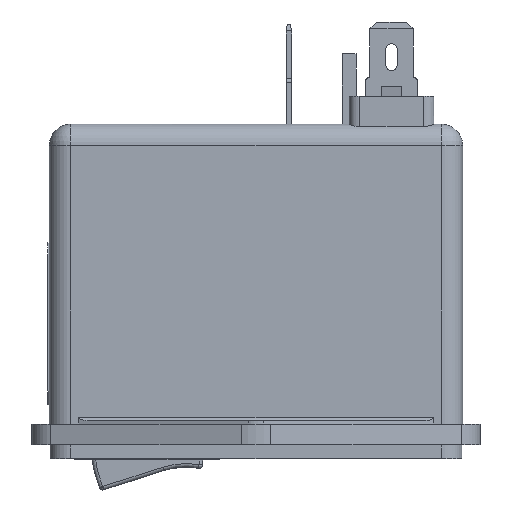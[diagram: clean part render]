
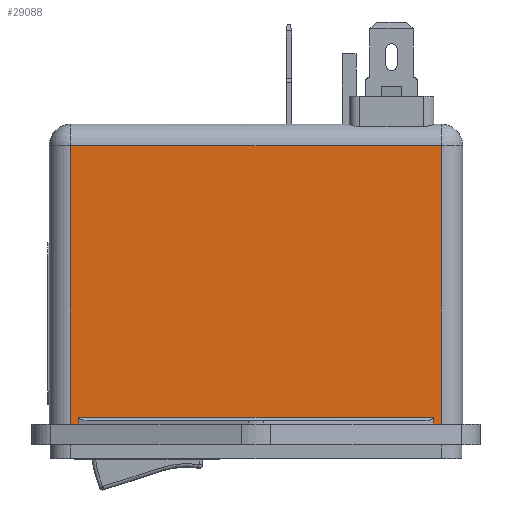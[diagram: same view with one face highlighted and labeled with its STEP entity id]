
A CAD part, left-side view. The second image highlights one B-rep face of the part: STEP entity #29088.
In plain terms, the highlighted planar face has unit normal (-1, 0, 0).
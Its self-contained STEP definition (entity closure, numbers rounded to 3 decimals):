
#28314=CARTESIAN_POINT('',(-14.25,-8.775,24.375));
#28315=VERTEX_POINT('',#28314);
#28323=CARTESIAN_POINT('',(-14.25,-7.655,24.375));
#28324=VERTEX_POINT('',#28323);
#28325=CARTESIAN_POINT('',(-14.25,-8.775,24.375));
#28326=DIRECTION('',(0.0,1.0,0.0));
#28327=VECTOR('',#28326,1.12);
#28328=LINE('',#28325,#28327);
#28329=EDGE_CURVE('',#28315,#28324,#28328,.T.);
#28347=CARTESIAN_POINT('',(-14.25,43.755,24.375));
#28348=VERTEX_POINT('',#28347);
#28355=CARTESIAN_POINT('',(-14.25,44.875,24.375));
#28356=VERTEX_POINT('',#28355);
#28357=CARTESIAN_POINT('',(-14.25,43.755,24.375));
#28358=DIRECTION('',(0.0,1.0,0.0));
#28359=VECTOR('',#28358,1.12);
#28360=LINE('',#28357,#28359);
#28361=EDGE_CURVE('',#28348,#28356,#28360,.T.);
#28794=CARTESIAN_POINT('',(-14.25,43.755,25.375));
#28795=VERTEX_POINT('',#28794);
#28813=CARTESIAN_POINT('',(-14.25,-7.655,25.375));
#28814=VERTEX_POINT('',#28813);
#28822=CARTESIAN_POINT('',(-14.25,-7.655,25.375));
#28823=DIRECTION('',(0.0,1.0,0.0));
#28824=VECTOR('',#28823,51.411);
#28825=LINE('',#28822,#28824);
#28826=EDGE_CURVE('',#28814,#28795,#28825,.T.);
#28988=CARTESIAN_POINT('',(-14.25,-7.655,25.375));
#28989=DIRECTION('',(0.0,0.0,-1.0));
#28990=VECTOR('',#28989,1.0);
#28991=LINE('',#28988,#28990);
#28992=EDGE_CURVE('',#28814,#28324,#28991,.T.);
#29030=CARTESIAN_POINT('',(-14.25,43.755,24.375));
#29031=DIRECTION('',(0.0,0.0,1.0));
#29032=VECTOR('',#29031,1.0);
#29033=LINE('',#29030,#29032);
#29034=EDGE_CURVE('',#28348,#28795,#29033,.T.);
#29054=CARTESIAN_POINT('',(-14.25,-11.925,24.375));
#29055=DIRECTION('',(-1.0,0.0,0.0));
#29056=DIRECTION('',(0.0,0.0,1.0));
#29057=AXIS2_PLACEMENT_3D('',#29054,#29055,#29056);
#29058=PLANE('',#29057);
#29059=ORIENTED_EDGE('',*,*,#28992,.T.);
#29060=ORIENTED_EDGE('',*,*,#28329,.F.);
#29061=CARTESIAN_POINT('',(-14.25,-8.775,64.725));
#29062=VERTEX_POINT('',#29061);
#29063=CARTESIAN_POINT('',(-14.25,-8.775,64.725));
#29064=DIRECTION('',(0.0,0.0,-1.0));
#29065=VECTOR('',#29064,40.35);
#29066=LINE('',#29063,#29065);
#29067=EDGE_CURVE('',#29062,#28315,#29066,.T.);
#29068=ORIENTED_EDGE('',*,*,#29067,.F.);
#29069=CARTESIAN_POINT('',(-14.25,44.875,64.725));
#29070=VERTEX_POINT('',#29069);
#29071=CARTESIAN_POINT('',(-14.25,44.875,64.725));
#29072=DIRECTION('',(0.0,-1.0,0.0));
#29073=VECTOR('',#29072,53.65);
#29074=LINE('',#29071,#29073);
#29075=EDGE_CURVE('',#29070,#29062,#29074,.T.);
#29076=ORIENTED_EDGE('',*,*,#29075,.F.);
#29077=CARTESIAN_POINT('',(-14.25,44.875,24.375));
#29078=DIRECTION('',(0.0,0.0,1.0));
#29079=VECTOR('',#29078,40.35);
#29080=LINE('',#29077,#29079);
#29081=EDGE_CURVE('',#28356,#29070,#29080,.T.);
#29082=ORIENTED_EDGE('',*,*,#29081,.F.);
#29083=ORIENTED_EDGE('',*,*,#28361,.F.);
#29084=ORIENTED_EDGE('',*,*,#29034,.T.);
#29085=ORIENTED_EDGE('',*,*,#28826,.F.);
#29086=EDGE_LOOP('',(#29059,#29060,#29068,#29076,#29082,#29083,#29084,#29085));
#29087=FACE_OUTER_BOUND('',#29086,.T.);
#29088=ADVANCED_FACE('',(#29087),#29058,.T.);
